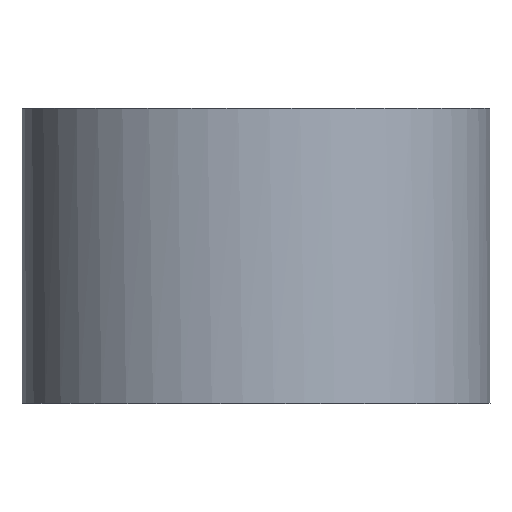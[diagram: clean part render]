
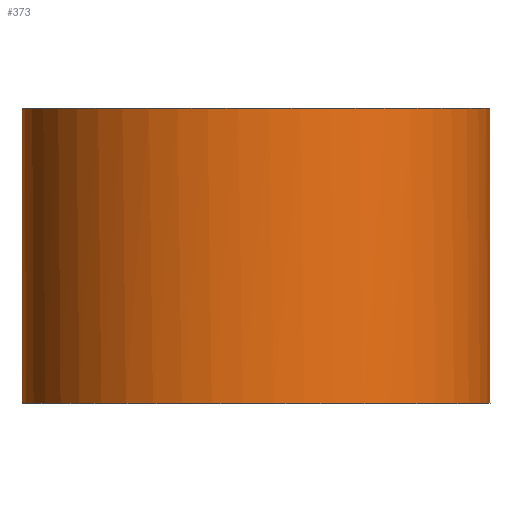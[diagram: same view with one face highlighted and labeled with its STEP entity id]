
A CAD part, top view. The second image highlights one B-rep face of the part: STEP entity #373.
In plain terms, the highlighted free-form (B-spline) face has degree [1, 2] with [2, 9] control points.
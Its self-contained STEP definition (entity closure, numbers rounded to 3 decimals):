
#15=(
BOUNDED_SURFACE()
B_SPLINE_SURFACE(1,2,((#615,#616,#617,#618,#619,#620,#621,#622,#623),(#624,
#625,#626,#627,#628,#629,#630,#631,#632)),.UNSPECIFIED.,.F.,.F.,.F.)
B_SPLINE_SURFACE_WITH_KNOTS((2,2),(3,2,2,2,3),(-0.63,0.63),
(-7.289,-6.001,-4.712,-3.424,
-2.136),.UNSPECIFIED.)
GEOMETRIC_REPRESENTATION_ITEM()
RATIONAL_B_SPLINE_SURFACE(((1.,0.8,1.,0.8,1.,
0.8,1.,0.8,1.),(1.,0.8,1.,0.8,
1.,0.8,1.,0.8,1.)))
REPRESENTATION_ITEM('')
SURFACE()
);
#16=ELLIPSE('',#412,13.5,12.);
#17=ELLIPSE('',#414,13.5,12.);
#40=LINE('',#600,#76);
#44=LINE('',#607,#80);
#76=VECTOR('',#490,10.);
#80=VECTOR('',#496,10.);
#135=FACE_OUTER_BOUND('',#167,.T.);
#167=EDGE_LOOP('',(#319,#320,#321,#322));
#209=VERTEX_POINT('',#598);
#210=VERTEX_POINT('',#599);
#211=VERTEX_POINT('',#605);
#212=VERTEX_POINT('',#606);
#243=EDGE_CURVE('',#209,#210,#40,.T.);
#247=EDGE_CURVE('',#211,#212,#44,.T.);
#251=EDGE_CURVE('',#211,#210,#16,.T.);
#252=EDGE_CURVE('',#209,#212,#17,.T.);
#319=ORIENTED_EDGE('',*,*,#243,.T.);
#320=ORIENTED_EDGE('',*,*,#251,.F.);
#321=ORIENTED_EDGE('',*,*,#247,.T.);
#322=ORIENTED_EDGE('',*,*,#252,.F.);
#373=ADVANCED_FACE('',(#135),#15,.F.);
#412=AXIS2_PLACEMENT_3D('',#612,#502,#503);
#414=AXIS2_PLACEMENT_3D('',#614,#506,#507);
#490=DIRECTION('',(0.,1.,0.));
#496=DIRECTION('',(0.,-1.,0.));
#502=DIRECTION('center_axis',(0.,1.,0.));
#503=DIRECTION('ref_axis',(-1.,0.,0.));
#506=DIRECTION('center_axis',(0.,-1.,0.));
#507=DIRECTION('ref_axis',(-1.,0.,0.));
#598=CARTESIAN_POINT('',(7.226,-8.5,6.064));
#599=CARTESIAN_POINT('',(7.226,8.5,6.064));
#600=CARTESIAN_POINT('',(7.226,0.,6.064));
#605=CARTESIAN_POINT('',(-7.226,8.5,6.064));
#606=CARTESIAN_POINT('',(-7.226,-8.5,6.064));
#607=CARTESIAN_POINT('',(-7.226,0.,6.064));
#612=CARTESIAN_POINT('Origin',(0.,8.5,16.2));
#614=CARTESIAN_POINT('Origin',(0.,-8.5,16.2));
#615=CARTESIAN_POINT('Ctrl Pts',(-7.226,-8.5,6.064));
#616=CARTESIAN_POINT('Ctrl Pts',(-15.791,-8.5,10.889));
#617=CARTESIAN_POINT('Ctrl Pts',(-12.965,-8.5,19.544));
#618=CARTESIAN_POINT('Ctrl Pts',(-10.139,-8.5,28.2));
#619=CARTESIAN_POINT('Ctrl Pts',(0.,-8.5,28.2));
#620=CARTESIAN_POINT('Ctrl Pts',(10.139,-8.5,28.2));
#621=CARTESIAN_POINT('Ctrl Pts',(12.965,-8.5,19.544));
#622=CARTESIAN_POINT('Ctrl Pts',(15.791,-8.5,10.889));
#623=CARTESIAN_POINT('Ctrl Pts',(7.226,-8.5,6.064));
#624=CARTESIAN_POINT('Ctrl Pts',(-7.226,8.5,6.064));
#625=CARTESIAN_POINT('Ctrl Pts',(-15.791,8.5,10.889));
#626=CARTESIAN_POINT('Ctrl Pts',(-12.965,8.5,19.544));
#627=CARTESIAN_POINT('Ctrl Pts',(-10.139,8.5,28.2));
#628=CARTESIAN_POINT('Ctrl Pts',(0.,8.5,28.2));
#629=CARTESIAN_POINT('Ctrl Pts',(10.139,8.5,28.2));
#630=CARTESIAN_POINT('Ctrl Pts',(12.965,8.5,19.544));
#631=CARTESIAN_POINT('Ctrl Pts',(15.791,8.5,10.889));
#632=CARTESIAN_POINT('Ctrl Pts',(7.226,8.5,6.064));
